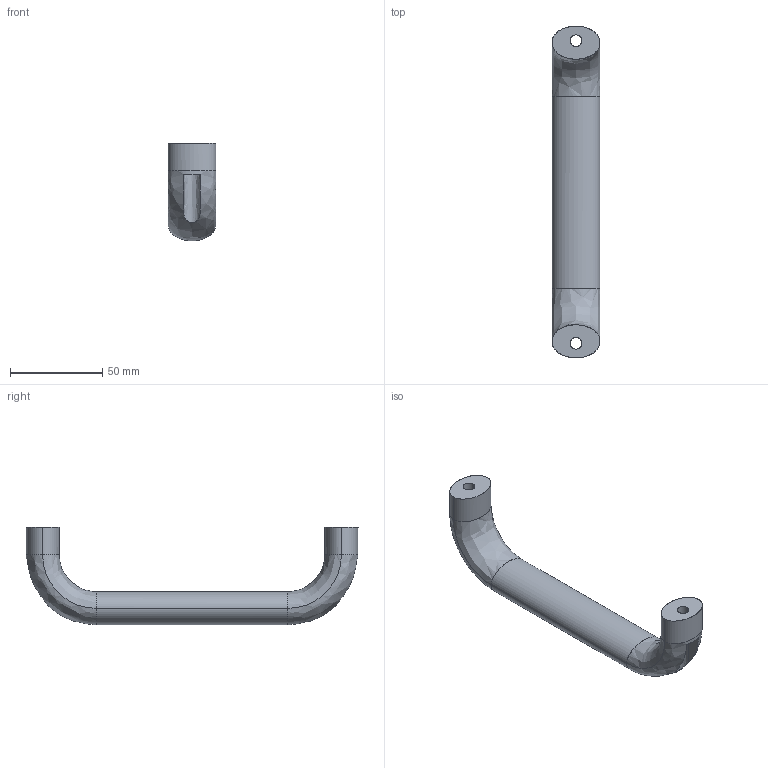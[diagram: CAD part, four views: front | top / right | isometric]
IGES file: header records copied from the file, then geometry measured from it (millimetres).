
Start section: SolidWorks IGES file using analytic representation for surfaces
Global section: file name: C:\Documents and Settings\Deathkiller\桌面\3D IGES\U型把手\MS-746\p=164.IGS; native system: SolidWorks 2006 by SolidWorks Corporation; preprocessor: SolidWorks 2006 by SolidWorks Corporation; author: Deathkiller; date: 080624.173134; units: millimetre
Bounding box: 26 x 180 x 52.97 mm (x, y, z)
Surface area: 17927.1 mm2 (no closed solid volume)
Topology: 0 solids, 0 shells, 28 faces, 474 edges, 474 vertices
Faces by surface type: bspline 20, revolution 8
